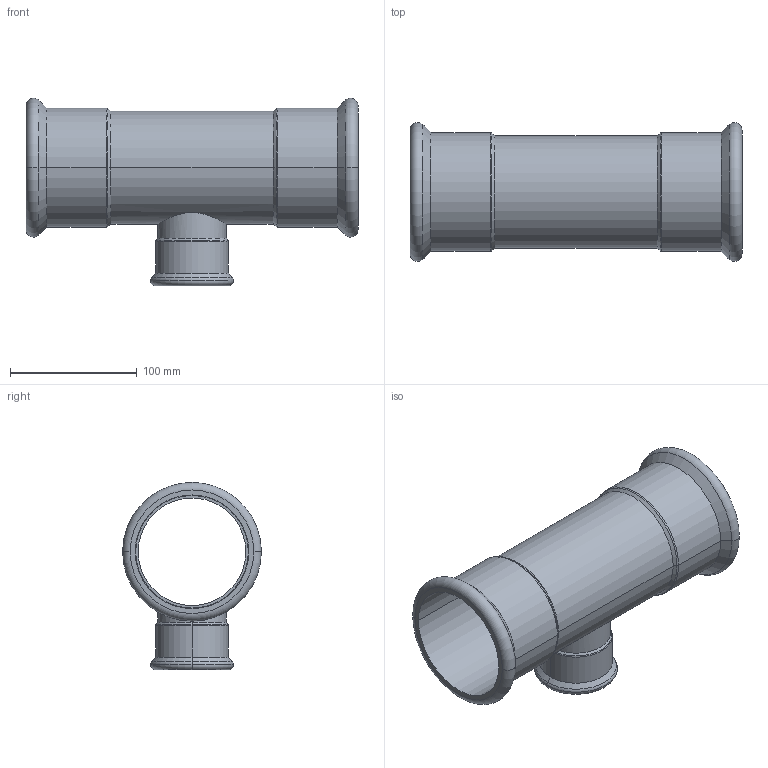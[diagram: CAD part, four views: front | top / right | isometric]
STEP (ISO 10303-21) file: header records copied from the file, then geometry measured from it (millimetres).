
FILE_DESCRIPTION(('CoCreate Modeling STEP Export'),'2;1');
FILE_NAME('C1415 88.9x54x88.9.stp','2014-11-12T10:54:27',(''),(''),'CoCreate Modeling STEP processor for AP214 (Solid Model)','CoCreate Modeling 17.00A 17-Jun-2010 (C) Parametric Technology GmbH','');
FILE_SCHEMA(('AUTOMOTIVE_DESIGN { 1 0 10303 214 1 1 1 1 }'));
Length unit declared in the file: millimetre
Products named in the file (2): C1415_89x54x89
Assembly tree (1 placements, depth 2):
  C1415_89x54x89
    C1415_89x54x89
Bounding box: 262 x 109.48 x 147.74 mm (x, y, z)
Volume: 225701.6 mm3; surface area: 176371.6 mm2
Topology: 1 solids, 1 shells, 62 faces, 127 edges, 75 vertices
Faces by surface type: cylinder 27, torus 14, cone 12, plane 9
Entity records: 2654 total; most frequent: CARTESIAN_POINT 1491, ORIENTED_EDGE 254, DIRECTION 206, EDGE_CURVE 127, AXIS2_PLACEMENT_3D 84, VERTEX_POINT 75, EDGE_LOOP 72, FACE_OUTER_BOUND 62
